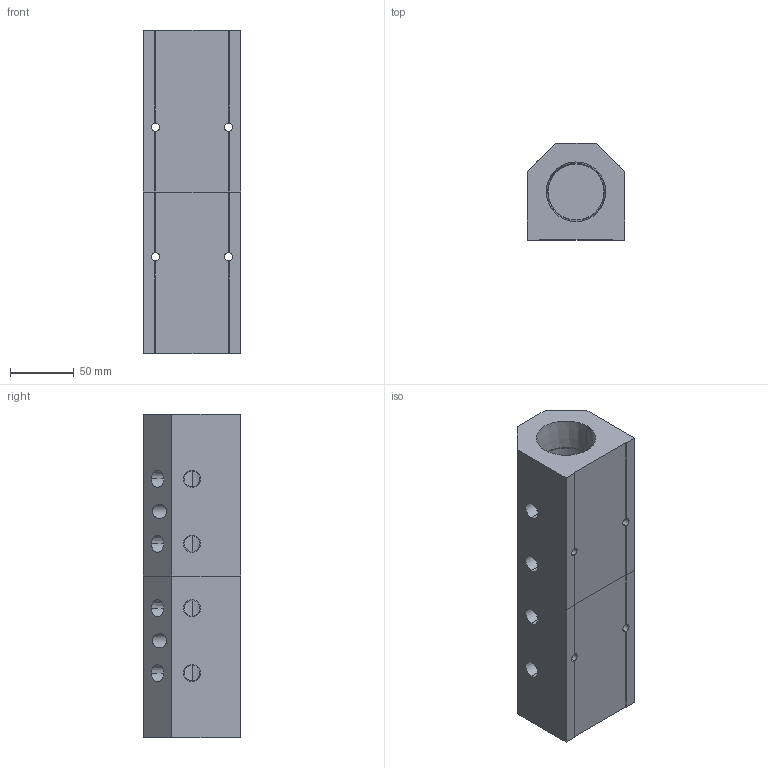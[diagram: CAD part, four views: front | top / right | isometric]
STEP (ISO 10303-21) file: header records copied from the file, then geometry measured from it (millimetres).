
FILE_DESCRIPTION (( 'STEP AP214' ), '1' );
FILE_NAME ('ALM4ABC-N4N24-254RB.step', '2022-02-07T07:52:01', ( '' ), ( '' ), 'SwSTEP 2.0', 'SolidWorks 2020', '' );
FILE_SCHEMA (( 'AUTOMOTIVE_DESIGN' ));
Length unit declared in the file: millimetre
Products named in the file (1): ALM4ABC-N4N24-254RB
Bounding box: 76.2 x 76.2 x 254 mm (x, y, z)
Volume: 916674.5 mm3; surface area: 137275.3 mm2
Topology: 2 solids, 2 shells, 380 faces, 1004 edges, 664 vertices
Faces by surface type: plane 275, bspline 57, cone 28, cylinder 20
Entity records: 20038 total; most frequent: CARTESIAN_POINT 7378, ORIENTED_EDGE 2008, DIRECTION 1562, EDGE_CURVE 1004, VECTOR 786, LINE 786, VERTEX_POINT 664, EDGE_LOOP 448
